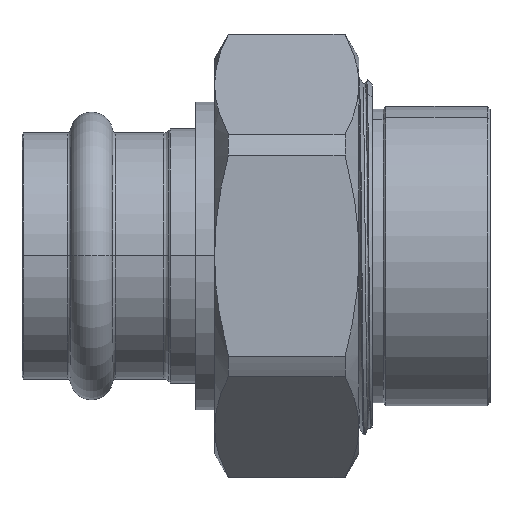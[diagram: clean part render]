
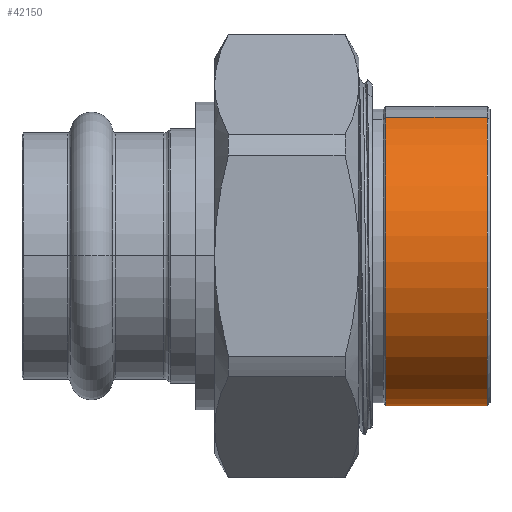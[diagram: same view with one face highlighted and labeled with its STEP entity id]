
A CAD part, top view. The second image highlights one B-rep face of the part: STEP entity #42150.
In plain terms, the highlighted cylindrical face has radius 1.103 mm (diameter 2.206 mm), a partial arc.
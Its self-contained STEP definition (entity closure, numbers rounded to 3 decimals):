
#14729 = VERTEX_POINT('',#14730);
#14730 = CARTESIAN_POINT('',(-33.321,1.02,
    -20.023));
#14743 = CONICAL_SURFACE('',#14744,1.501,0.785);
#14744 = AXIS2_PLACEMENT_3D('',#14745,#14746,#14747);
#14745 = CARTESIAN_POINT('',(-32.923,0.,
    -20.444));
#14746 = DIRECTION('',(1.,0.,0.));
#14747 = DIRECTION('',(0.,-0.924,-0.382));
#14755 = VERTEX_POINT('',#14756);
#14756 = CARTESIAN_POINT('',(-33.321,-1.02,
    -20.865));
#14770 = CYLINDRICAL_SURFACE('',#14771,1.103);
#14771 = AXIS2_PLACEMENT_3D('',#14772,#14773,#14774);
#14772 = CARTESIAN_POINT('',(-33.419,0.,
    -20.444));
#14773 = DIRECTION('',(1.,0.,0.));
#14774 = DIRECTION('',(0.,-0.924,-0.382));
#14920 = VERTEX_POINT('',#14921);
#14921 = CARTESIAN_POINT('',(-32.572,-1.02,
    -20.865));
#14934 = CONICAL_SURFACE('',#14935,1.084,0.785);
#14935 = AXIS2_PLACEMENT_3D('',#14936,#14937,#14938);
#14936 = CARTESIAN_POINT('',(-32.552,0.,
    -20.444));
#14937 = DIRECTION('',(-1.,0.,0.));
#14938 = DIRECTION('',(0.,0.924,0.382));
#14946 = VERTEX_POINT('',#14947);
#14947 = CARTESIAN_POINT('',(-32.572,1.02,
    -20.023));
#42107 = EDGE_CURVE('',#14729,#14946,#42108,.T.);
#42108 = SURFACE_CURVE('',#42109,(#42113,#42119),.PCURVE_S1.);
#42109 = LINE('',#42110,#42111);
#42110 = CARTESIAN_POINT('',(-33.419,1.02,
    -20.023));
#42111 = VECTOR('',#42112,1.);
#42112 = DIRECTION('',(1.,0.,0.));
#42113 = PCURVE('',#14770,#42114);
#42114 = DEFINITIONAL_REPRESENTATION('',(#42115),#42118);
#42115 = B_SPLINE_CURVE_WITH_KNOTS('',1,(#42116,#42117),.UNSPECIFIED.,
  .F.,.F.,(2,2),(0.099,0.847),.PIECEWISE_BEZIER_KNOTS.);
#42116 = CARTESIAN_POINT('',(3.142,0.099));
#42117 = CARTESIAN_POINT('',(3.142,0.847));
#42118 = ( GEOMETRIC_REPRESENTATION_CONTEXT(2) 
PARAMETRIC_REPRESENTATION_CONTEXT() REPRESENTATION_CONTEXT('2D SPACE',''
  ) );
#42119 = PCURVE('',#42120,#42125);
#42120 = CYLINDRICAL_SURFACE('',#42121,1.103);
#42121 = AXIS2_PLACEMENT_3D('',#42122,#42123,#42124);
#42122 = CARTESIAN_POINT('',(-33.419,0.,
    -20.444));
#42123 = DIRECTION('',(1.,0.,0.));
#42124 = DIRECTION('',(0.,-0.924,-0.382));
#42125 = DEFINITIONAL_REPRESENTATION('',(#42126),#42129);
#42126 = B_SPLINE_CURVE_WITH_KNOTS('',1,(#42127,#42128),.UNSPECIFIED.,
  .F.,.F.,(2,2),(0.099,0.847),.PIECEWISE_BEZIER_KNOTS.);
#42127 = CARTESIAN_POINT('',(3.142,0.099));
#42128 = CARTESIAN_POINT('',(3.142,0.847));
#42129 = ( GEOMETRIC_REPRESENTATION_CONTEXT(2) 
PARAMETRIC_REPRESENTATION_CONTEXT() REPRESENTATION_CONTEXT('2D SPACE',''
  ) );
#42132 = EDGE_CURVE('',#14755,#14920,#42133,.T.);
#42133 = SURFACE_CURVE('',#42134,(#42138,#42144),.PCURVE_S1.);
#42134 = LINE('',#42135,#42136);
#42135 = CARTESIAN_POINT('',(-33.419,-1.02,
    -20.865));
#42136 = VECTOR('',#42137,1.);
#42137 = DIRECTION('',(1.,0.,0.));
#42138 = PCURVE('',#14770,#42139);
#42139 = DEFINITIONAL_REPRESENTATION('',(#42140),#42143);
#42140 = B_SPLINE_CURVE_WITH_KNOTS('',1,(#42141,#42142),.UNSPECIFIED.,
  .F.,.F.,(2,2),(0.099,0.847),.PIECEWISE_BEZIER_KNOTS.);
#42141 = CARTESIAN_POINT('',(0.,0.099));
#42142 = CARTESIAN_POINT('',(0.,0.847));
#42143 = ( GEOMETRIC_REPRESENTATION_CONTEXT(2) 
PARAMETRIC_REPRESENTATION_CONTEXT() REPRESENTATION_CONTEXT('2D SPACE',''
  ) );
#42144 = PCURVE('',#42120,#42145);
#42145 = DEFINITIONAL_REPRESENTATION('',(#42146),#42149);
#42146 = B_SPLINE_CURVE_WITH_KNOTS('',1,(#42147,#42148),.UNSPECIFIED.,
  .F.,.F.,(2,2),(0.099,0.847),.PIECEWISE_BEZIER_KNOTS.);
#42147 = CARTESIAN_POINT('',(6.283,0.099));
#42148 = CARTESIAN_POINT('',(6.283,0.847));
#42149 = ( GEOMETRIC_REPRESENTATION_CONTEXT(2) 
PARAMETRIC_REPRESENTATION_CONTEXT() REPRESENTATION_CONTEXT('2D SPACE',''
  ) );
#42150 = ADVANCED_FACE('',(#42151),#42120,.T.);
#42151 = FACE_BOUND('',#42152,.T.);
#42152 = EDGE_LOOP('',(#42153,#42154,#42174,#42175));
#42153 = ORIENTED_EDGE('',*,*,#42107,.F.);
#42154 = ORIENTED_EDGE('',*,*,#42155,.T.);
#42155 = EDGE_CURVE('',#14729,#14755,#42156,.T.);
#42156 = SURFACE_CURVE('',#42157,(#42162,#42168),.PCURVE_S1.);
#42157 = CIRCLE('',#42158,1.103);
#42158 = AXIS2_PLACEMENT_3D('',#42159,#42160,#42161);
#42159 = CARTESIAN_POINT('',(-33.321,0.,
    -20.444));
#42160 = DIRECTION('',(1.,0.,0.));
#42161 = DIRECTION('',(0.,-0.924,-0.382));
#42162 = PCURVE('',#42120,#42163);
#42163 = DEFINITIONAL_REPRESENTATION('',(#42164),#42167);
#42164 = B_SPLINE_CURVE_WITH_KNOTS('',1,(#42165,#42166),.UNSPECIFIED.,
  .F.,.F.,(2,2),(3.142,6.283),.PIECEWISE_BEZIER_KNOTS.);
#42165 = CARTESIAN_POINT('',(3.142,0.099));
#42166 = CARTESIAN_POINT('',(6.283,0.099));
#42167 = ( GEOMETRIC_REPRESENTATION_CONTEXT(2) 
PARAMETRIC_REPRESENTATION_CONTEXT() REPRESENTATION_CONTEXT('2D SPACE',''
  ) );
#42168 = PCURVE('',#14743,#42169);
#42169 = DEFINITIONAL_REPRESENTATION('',(#42170),#42173);
#42170 = B_SPLINE_CURVE_WITH_KNOTS('',1,(#42171,#42172),.UNSPECIFIED.,
  .F.,.F.,(2,2),(3.142,6.283),.PIECEWISE_BEZIER_KNOTS.);
#42171 = CARTESIAN_POINT('',(3.142,-0.398));
#42172 = CARTESIAN_POINT('',(6.283,-0.398));
#42173 = ( GEOMETRIC_REPRESENTATION_CONTEXT(2) 
PARAMETRIC_REPRESENTATION_CONTEXT() REPRESENTATION_CONTEXT('2D SPACE',''
  ) );
#42174 = ORIENTED_EDGE('',*,*,#42132,.T.);
#42175 = ORIENTED_EDGE('',*,*,#42176,.T.);
#42176 = EDGE_CURVE('',#14920,#14946,#42177,.T.);
#42177 = SURFACE_CURVE('',#42178,(#42183,#42189),.PCURVE_S1.);
#42178 = CIRCLE('',#42179,1.103);
#42179 = AXIS2_PLACEMENT_3D('',#42180,#42181,#42182);
#42180 = CARTESIAN_POINT('',(-32.572,0.,
    -20.444));
#42181 = DIRECTION('',(-1.,0.,0.));
#42182 = DIRECTION('',(0.,0.924,0.382));
#42183 = PCURVE('',#42120,#42184);
#42184 = DEFINITIONAL_REPRESENTATION('',(#42185),#42188);
#42185 = B_SPLINE_CURVE_WITH_KNOTS('',1,(#42186,#42187),.UNSPECIFIED.,
  .F.,.F.,(2,2),(3.142,6.283),.PIECEWISE_BEZIER_KNOTS.);
#42186 = CARTESIAN_POINT('',(6.283,0.847));
#42187 = CARTESIAN_POINT('',(3.142,0.847));
#42188 = ( GEOMETRIC_REPRESENTATION_CONTEXT(2) 
PARAMETRIC_REPRESENTATION_CONTEXT() REPRESENTATION_CONTEXT('2D SPACE',''
  ) );
#42189 = PCURVE('',#14934,#42190);
#42190 = DEFINITIONAL_REPRESENTATION('',(#42191),#42194);
#42191 = B_SPLINE_CURVE_WITH_KNOTS('',1,(#42192,#42193),.UNSPECIFIED.,
  .F.,.F.,(2,2),(3.142,6.283),.PIECEWISE_BEZIER_KNOTS.);
#42192 = CARTESIAN_POINT('',(3.142,0.02));
#42193 = CARTESIAN_POINT('',(6.283,0.02));
#42194 = ( GEOMETRIC_REPRESENTATION_CONTEXT(2) 
PARAMETRIC_REPRESENTATION_CONTEXT() REPRESENTATION_CONTEXT('2D SPACE',''
  ) );
